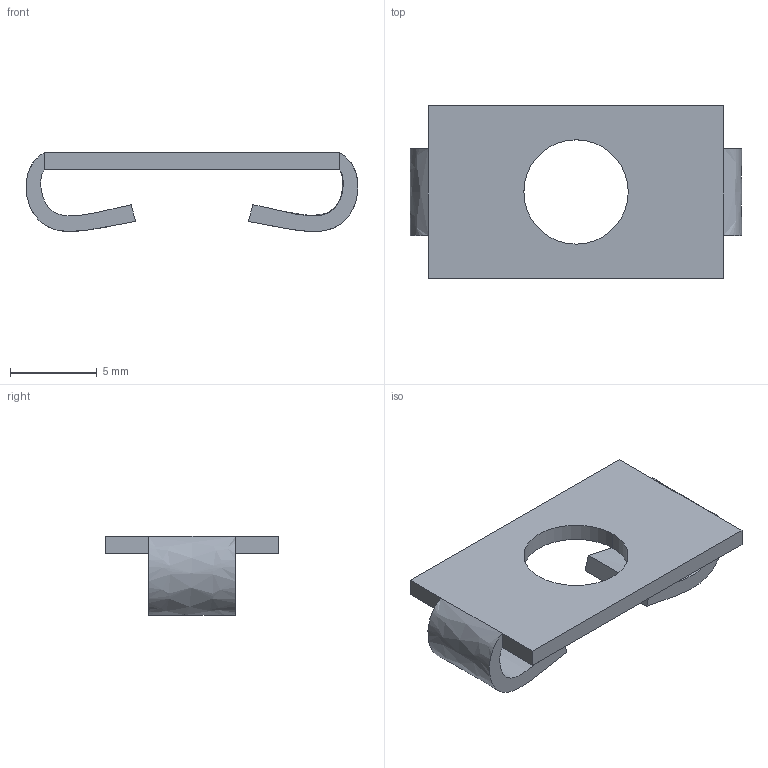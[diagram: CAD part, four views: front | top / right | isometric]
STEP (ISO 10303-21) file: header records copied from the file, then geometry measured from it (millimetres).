
FILE_DESCRIPTION (( 'STEP AP203' ), '1' );
FILE_NAME ('5087.STEP', '2017-02-10T12:22:40', ( 'RosInstal-MKM' ), ( '' ), 'SwSTEP 2.0', 'SolidWorks 2014', '' );
FILE_SCHEMA (( 'CONFIG_CONTROL_DESIGN' ));
Length unit declared in the file: millimetre
Products named in the file (1): 5087
Bounding box: 19.08 x 10 x 4.55 mm (x, y, z)
Volume: 219.9 mm3; surface area: 562.3 mm2
Topology: 1 solids, 1 shells, 20 faces, 46 edges, 28 vertices
Faces by surface type: plane 14, bspline 4, cylinder 2
Entity records: 687 total; most frequent: CARTESIAN_POINT 179, ORIENTED_EDGE 92, DIRECTION 76, EDGE_CURVE 46, VECTOR 34, LINE 34, VERTEX_POINT 28, EDGE_LOOP 22
